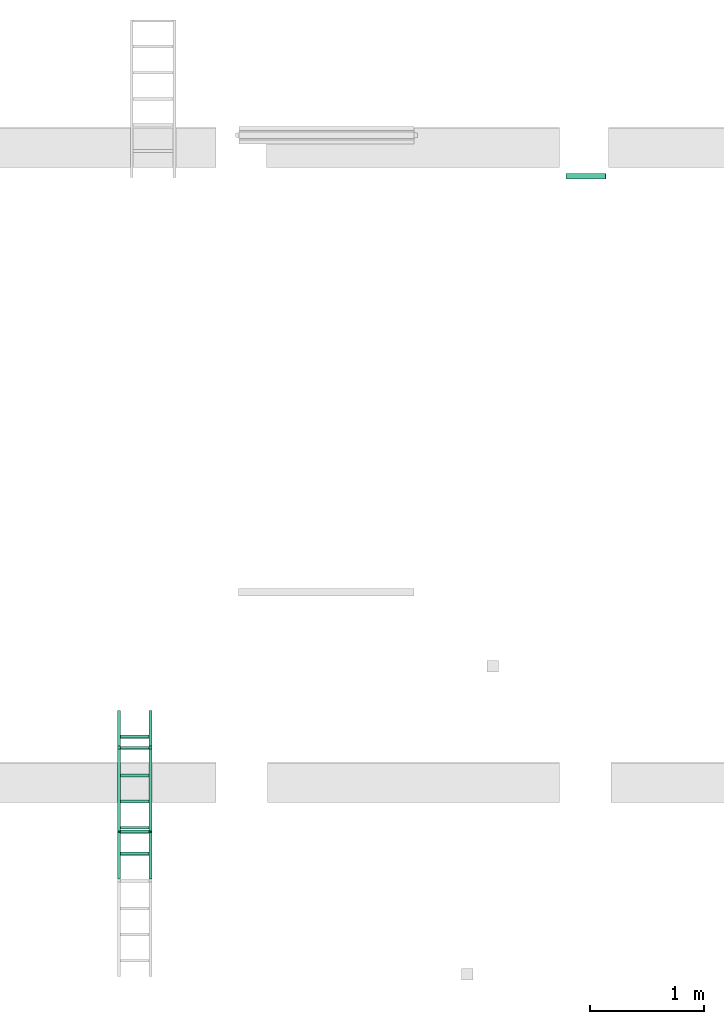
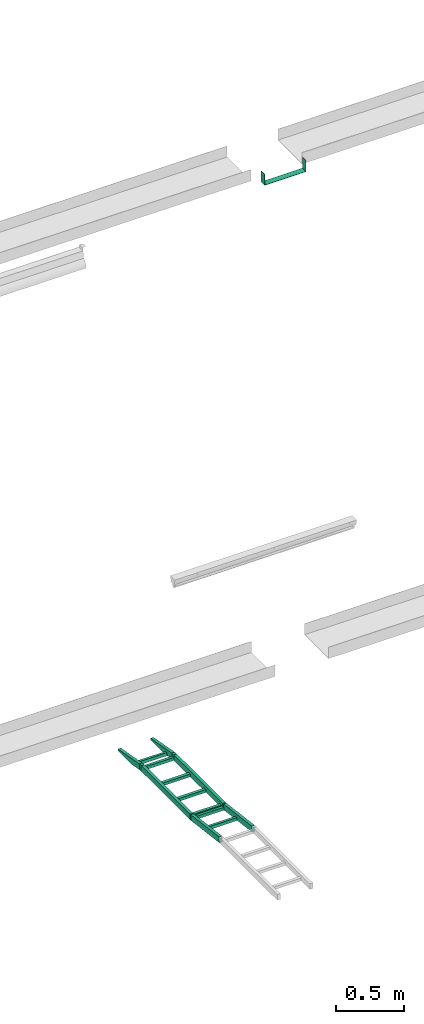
# One storey, part 14 of 14: 4 flow segments, 2 flow fittings.
"""IFC2X3 building model written with IfcOpenShell, lengths in millimetres."""

from ifc_helpers import new_model, entity, si_unit, converted_unit, derived_unit, direction, frame, origin_with_axes, place, context, subcontext, project, spatial, open_shell, faceted_brep, surface_model, source, transform, mapped, type_object, element, save


model = new_model("IFC2X3")

# Units and contexts
model_context = context("Model", 3, precision=0.01, world=frame((0.0, 4.29681676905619e-09, 0.0)), true_north=direction((4.01073788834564e-13, 1.0)))
plan_context = context("Plan", 3, precision=0.01, world=frame((0.0, 4.29681676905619e-09, 0.0)), true_north=direction((4.01073788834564e-13, 1.0)))
body_context = subcontext(model_context, "Body", "Model", "MODEL_VIEW")
ifc_project = project(units=[converted_unit("PLANEANGLEUNIT", "DEGREE", entity("IfcPositiveLengthMeasure", 0.0174532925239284), si_unit("PLANEANGLEUNIT", "RADIAN"), dimensions=[0, 0, 0, 0, 0, 0, 0]), si_unit("AREAUNIT", "SQUARE_METRE"), si_unit("LENGTHUNIT", "METRE", prefix="MILLI"), si_unit("MASSUNIT", "GRAM", prefix="KILO"), si_unit("POWERUNIT", "WATT"), si_unit("PRESSUREUNIT", "PASCAL", prefix="KILO"), si_unit("FORCEUNIT", "NEWTON", prefix="KILO"), si_unit("ELECTRICVOLTAGEUNIT", "VOLT"), si_unit("ELECTRICCURRENTUNIT", "AMPERE"), si_unit("THERMODYNAMICTEMPERATUREUNIT", "DEGREE_CELSIUS"), si_unit("TIMEUNIT", "SECOND"), si_unit("VOLUMEUNIT", "CUBIC_METRE"), derived_unit("LINEARVELOCITYUNIT", [(si_unit("LENGTHUNIT", "METRE"), 1), (si_unit("TIMEUNIT", "SECOND"), -1)]), derived_unit("VOLUMETRICFLOWRATEUNIT", [(si_unit("VOLUMEUNIT", "CUBIC_METRE"), 1), (si_unit("TIMEUNIT", "SECOND"), -1)]), derived_unit("THERMALTRANSMITTANCEUNIT", [(si_unit("POWERUNIT", "WATT"), 1), (si_unit("THERMODYNAMICTEMPERATUREUNIT", "KELVIN"), -1), (si_unit("AREAUNIT", "SQUARE_METRE"), -1)]), derived_unit("SOUNDPRESSUREUNIT", [(si_unit("PRESSUREUNIT", "PASCAL"), 1)])], contexts=[model_context, plan_context])

# Site, building, storey
site_placement = place(None, frame((0.0, -4.29681676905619e-09, 0.0), z_axis=(0.0, 0.0, 1.0), x_axis=(1.0, 0.0, 0.0)))
site = spatial("IfcSite", under=ifc_project, at=site_placement, Name="ENGM", CompositionType="ELEMENT")
building_placement = place(site_placement, frame((0.0, 4.29681676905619e-09, 0.0), z_axis=(0.0, 0.0, 1.0), x_axis=(1.0, 0.0, 0.0)))
building = spatial("IfcBuilding", under=site, at=building_placement, Name="TG", CompositionType="ELEMENT")
storey_placement = place(building_placement, frame((0.0, 0.0, 205200.0), z_axis=(0.0, 0.0, 1.0), x_axis=(1.0, 0.0, 0.0)))
storey = spatial("IfcBuildingStorey", under=building, at=storey_placement, Name="Nivå D + 1,2", CompositionType="ELEMENT", Elevation=205200.0)

# Flow fittings
cable_carrier_fitting_type = type_object("IfcCableCarrierFittingType", Name="Standard 10mm", PredefinedType="BEND")
shared_shape_1 = source(origin_with_axes(), body_context, "Body", "SurfaceModel", [
    surface_model("IfcShellBasedSurfaceModel", [(12.67337, 0.8628, -124.6), (10.42555, 26.16314, -124.6), (10.42555, 26.16314, 124.6), (12.67337, 0.8628, 124.6), (-12.62697, -1.38502, 124.6), (-12.62697, -1.38502, -124.6), (-14.87479, 23.91533, -124.6), (-14.87479, 23.91533, 124.6), (-13.10959, 25.0, 150.0), (-13.10959, 25.0, 124.6), (-13.10959, -25.0, 124.6), (-13.10959, -25.0, 150.0), (-13.10959, 25.0, -124.6), (-13.10959, 25.0, -150.0), (-13.10959, -25.0, -150.0), (-13.10959, -25.0, -124.6), (-3.10959, 25.0, 150.0), (-3.10959, 25.0, 124.6), (-3.10959, -25.0, 124.6), (-2.22462, 25.03924, 124.6), (2.20022, -24.76459, 124.6), (-1.3466, 25.15663, 124.6), (8.49677, 26.91963, 124.6), (17.31172, -22.29721, 124.6), (7.46836, -24.0602, 124.6), (-3.10959, -25.0, 150.0), (-2.22462, 25.03924, 150.0), (2.20022, -24.76459, 150.0), (7.46836, -24.0602, 150.0), (-1.3466, 25.15663, 150.0), (17.31172, -22.29721, 150.0), (8.49677, 26.91963, 150.0), (-3.10959, 25.0, -124.6), (-3.10959, 25.0, -150.0), (-3.10959, -25.0, -150.0), (-2.22462, 25.03924, -150.0), (2.20022, -24.76459, -150.0), (-1.3466, 25.15663, -150.0), (8.49677, 26.91963, -150.0), (17.31172, -22.29721, -150.0), (7.46836, -24.0602, -150.0), (-3.10959, -25.0, -124.6), (-2.22462, 25.03924, -124.6), (2.20022, -24.76459, -124.6), (7.46836, -24.0602, -124.6), (-1.3466, 25.15663, -124.6), (17.31172, -22.29721, -124.6), (8.49677, 26.91963, -124.6)], [open_shell([[[0, 1, 2]], [[2, 3, 0]], [[3, 4, 5]], [[5, 0, 3]], [[0, 5, 6]], [[6, 1, 0]], [[1, 6, 7]], [[7, 2, 1]], [[3, 2, 7]], [[7, 4, 3]], [[7, 6, 5]], [[5, 4, 7]], [[8, 9, 10]], [[10, 11, 8]], [[12, 13, 14]], [[14, 15, 12]], [[8, 16, 17]], [[17, 9, 8]], [[10, 17, 18]], [[17, 10, 9]], [[18, 17, 19]], [[19, 20, 18]], [[21, 22, 23]], [[21, 24, 20]], [[24, 21, 23]], [[21, 20, 19]], [[10, 18, 25]], [[25, 11, 10]], [[11, 25, 16]], [[16, 8, 11]], [[26, 16, 25]], [[25, 27, 26]], [[27, 28, 29]], [[29, 30, 31]], [[30, 29, 28]], [[27, 29, 26]], [[12, 32, 33]], [[33, 13, 12]], [[14, 33, 34]], [[33, 14, 13]], [[34, 33, 35]], [[35, 36, 34]], [[37, 38, 39]], [[37, 40, 36]], [[40, 37, 39]], [[37, 36, 35]], [[14, 34, 41]], [[41, 15, 14]], [[15, 41, 32]], [[32, 12, 15]], [[42, 32, 41]], [[41, 43, 42]], [[43, 44, 45]], [[45, 46, 47]], [[46, 45, 44]], [[43, 45, 42]], [[19, 17, 16]], [[26, 19, 16]], [[29, 21, 26]], [[19, 26, 21]], [[27, 25, 18]], [[27, 18, 20]], [[27, 24, 28]], [[24, 27, 20]], [[32, 42, 33]], [[35, 33, 42]], [[45, 37, 35]], [[42, 45, 35]], [[41, 36, 43]], [[36, 41, 34]], [[36, 40, 44]], [[36, 44, 43]], [[23, 22, 30]], [[31, 30, 22]], [[39, 38, 46]], [[47, 46, 38]], [[29, 31, 22]], [[22, 21, 29]], [[24, 23, 30]], [[30, 28, 24]], [[45, 47, 38]], [[38, 37, 45]], [[40, 39, 46]], [[46, 44, 40]]])]),
])
flow_fitting_1_placement = place(storey_placement, frame((340570.0, 461140.0, 4047.5), z_axis=(1.0, 0.0, 0.0), x_axis=(0.0, -0.98433667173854, 0.176298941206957)))
element("IfcFlowFitting", 1, at=flow_fitting_1_placement, inside=storey, type_object=cable_carrier_fitting_type, Name="Standard 10mm", context=body_context, shape_type="MappedRepresentation", body=[
    mapped(shared_shape_1, transform((0.0, 0.0, 0.0), scale=1.0)),
])
shared_shape_2 = source(origin_with_axes(), body_context, "Body", "SurfaceModel", [
    surface_model("IfcShellBasedSurfaceModel", [(-2.22929, -25.0, 124.6), (-2.22929, 25.0, 124.6), (-1.59364, 25.02022, 124.6), (1.58462, -24.87866, 124.6), (-0.96056, 25.08081, 124.6), (5.38311, -24.51513, 124.6), (-1.59364, 25.02022, 150.0), (-2.22929, 25.0, 150.0), (-2.22929, -25.0, 150.0), (1.58462, -24.87866, 150.0), (5.38311, -24.51513, 150.0), (-0.96056, 25.08081, 150.0), (-2.22929, -25.0, -150.0), (-2.22929, 25.0, -150.0), (-1.59364, 25.02022, -150.0), (1.58462, -24.87866, -150.0), (-0.96056, 25.08081, -150.0), (5.38311, -24.51513, -150.0), (-1.59364, 25.02022, -124.6), (-2.22929, 25.0, -124.6), (-2.22929, -25.0, -124.6), (1.58462, -24.87866, -124.6), (5.38311, -24.51513, -124.6), (-0.96056, 25.08081, -124.6), (14.25894, -24.07138, -124.6), (12.64438, 1.27725, -124.6), (12.64438, 1.27725, 124.6), (14.25894, -24.07138, 124.6), (-11.08969, -25.68594, 124.6), (-11.08969, -25.68594, -124.6), (-12.70425, -0.33731, -124.6), (-12.70425, -0.33731, 124.6), (-5.22929, 25.0, 150.0), (-5.22929, 25.0, 124.6), (-5.22929, -25.0, 124.6), (-5.22929, -25.0, 150.0), (-5.22929, 25.0, -124.6), (-5.22929, 25.0, -150.0), (-5.22929, -25.0, -150.0), (-5.22929, -25.0, -124.6), (2.0152, 25.46143, 124.6), (8.35887, -24.13451, 124.6), (8.35887, -24.13451, 150.0), (2.0152, 25.46143, 150.0), (2.0152, 25.46143, -150.0), (8.35887, -24.13451, -150.0), (8.35887, -24.13451, -124.6), (2.0152, 25.46143, -124.6)], [open_shell([[[0, 1, 2]], [[2, 3, 0]], [[4, 5, 3]], [[4, 3, 2]], [[6, 7, 8]], [[8, 9, 6]], [[9, 10, 11]], [[9, 11, 6]], [[12, 13, 14]], [[14, 15, 12]], [[16, 17, 15]], [[16, 15, 14]], [[18, 19, 20]], [[20, 21, 18]], [[21, 22, 23]], [[21, 23, 18]], [[2, 1, 7]], [[6, 2, 7]], [[11, 4, 6]], [[2, 6, 4]], [[9, 8, 0]], [[9, 0, 3]], [[9, 5, 10]], [[5, 9, 3]], [[19, 18, 13]], [[14, 13, 18]], [[23, 16, 14]], [[18, 23, 14]], [[20, 15, 21]], [[15, 20, 12]], [[15, 17, 22]], [[15, 22, 21]], [[24, 25, 26]], [[26, 27, 24]], [[27, 28, 29]], [[29, 24, 27]], [[24, 29, 30]], [[30, 25, 24]], [[25, 30, 31]], [[31, 26, 25]], [[27, 26, 31]], [[31, 28, 27]], [[31, 30, 29]], [[29, 28, 31]], [[32, 33, 34]], [[34, 35, 32]], [[36, 37, 38]], [[38, 39, 36]], [[32, 7, 1]], [[1, 33, 32]], [[34, 1, 0]], [[1, 34, 33]], [[4, 40, 41]], [[5, 4, 41]], [[34, 0, 8]], [[8, 35, 34]], [[35, 8, 7]], [[7, 32, 35]], [[11, 42, 43]], [[42, 11, 10]], [[36, 19, 13]], [[13, 37, 36]], [[38, 13, 12]], [[13, 38, 37]], [[16, 44, 45]], [[17, 16, 45]], [[38, 12, 20]], [[20, 39, 38]], [[39, 20, 19]], [[19, 36, 39]], [[23, 46, 47]], [[46, 23, 22]], [[41, 40, 42]], [[43, 42, 40]], [[45, 44, 46]], [[47, 46, 44]], [[11, 43, 40]], [[40, 4, 11]], [[5, 41, 42]], [[42, 10, 5]], [[23, 47, 44]], [[44, 16, 23]], [[17, 45, 46]], [[46, 22, 17]]])]),
])
flow_fitting_2_placement = place(storey_placement, frame((340570.0, 460406.89041, 4047.5), z_axis=(-1.0, 0.0, 0.0), x_axis=(0.0, -1.0, 0.0)))
element("IfcFlowFitting", 2, at=flow_fitting_2_placement, inside=storey, type_object=cable_carrier_fitting_type, Name="Standard 10mm", context=body_context, shape_type="MappedRepresentation", body=[
    mapped(shared_shape_2, transform((0.0, 0.0, 0.0), scale=1.0)),
])

# Flow segments
cable_carrier_segment_type_1 = type_object("IfcCableCarrierSegmentType", Name="Kabelbane", PredefinedType="CABLETRAYSEGMENT")
shared_shape_3 = source(origin_with_axes(), body_context, "Body", "SurfaceModel", [
    surface_model("IfcShellBasedSurfaceModel", [(0.0, -175.0, 50.0), (0.0, -172.46, -47.46), (0.0, -175.0, -50.0), (0.0, 175.0, -50.0), (0.0, -172.46, 50.0), (0.0, 175.0, 50.0), (0.0, 172.46, -47.46), (0.0, 172.46, 50.0), (50.0, -172.46, 50.0), (50.0, -175.0, 50.0), (50.0, -172.46, -47.46), (50.0, 175.0, 50.0), (50.0, 172.46, 50.0), (50.0, 172.46, -47.46), (50.0, -175.0, -50.0), (50.0, 175.0, -50.0)], [open_shell([[[0, 1, 2]], [[3, 2, 1]], [[1, 0, 4]], [[5, 3, 6]], [[1, 6, 3]], [[6, 7, 5]], [[8, 9, 10]], [[11, 12, 13]], [[10, 14, 15]], [[14, 10, 9]], [[13, 15, 11]], [[15, 13, 10]], [[2, 14, 9]], [[9, 0, 2]], [[0, 9, 8]], [[8, 4, 0]], [[4, 8, 10]], [[10, 1, 4]], [[1, 10, 13]], [[13, 6, 1]], [[6, 13, 12]], [[12, 7, 6]], [[7, 12, 11]], [[11, 5, 7]], [[5, 11, 15]], [[15, 3, 5]], [[3, 15, 14]], [[14, 2, 3]]])]),
])
flow_segment_1_placement = place(storey_placement, frame((344512.09972, 466160.0, 4900.0), z_axis=(0.0, 0.0, 1.0), x_axis=(0.0, -1.0, 0.0)))
element("IfcFlowSegment", 3, at=flow_segment_1_placement, inside=storey, type_object=cable_carrier_segment_type_1, Name="Kabelbane", context=body_context, shape_type="MappedRepresentation", body=[
    mapped(shared_shape_3, transform((0.0, 0.0, 0.0), scale=1.0)),
])
cable_carrier_segment_type_2 = type_object("IfcCableCarrierSegmentType", Name="Kabelbro", PredefinedType="CABLELADDERSEGMENT")
shared_shape_4 = source(origin_with_axes(), body_context, "Body", "SurfaceModel", [
    surface_model("IfcShellBasedSurfaceModel", [(241.30001, -124.6, 0.4), (215.89999, -124.6, 0.4), (215.89999, -124.6, -25.0), (241.30001, -124.6, -25.0), (215.89999, 124.6, -25.0), (215.89999, 124.6, 0.4), (241.30001, 124.6, 0.4), (241.30001, 124.6, -25.0), (469.89999, -124.6, 0.4), (444.50001, -124.6, 0.4), (444.50001, -124.6, -25.0), (469.89999, -124.6, -25.0), (444.50001, 124.6, -25.0), (444.50001, 124.6, 0.4), (469.89999, 124.6, 0.4), (469.89999, 124.6, -25.0), (698.50002, -124.6, 0.4), (673.09998, -124.6, 0.4), (673.09998, -124.6, -25.0), (698.50002, -124.6, -25.0), (673.09998, 124.6, -25.0), (673.09998, 124.6, 0.4), (698.50002, 124.6, 0.4), (698.50002, 124.6, -25.0), (0.0, -124.6, -25.0), (0.0, -150.0, 25.0), (0.0, -124.6, 25.0), (0.0, -150.0, -25.0), (0.0, 150.0, -25.0), (0.0, 124.6, 25.0), (0.0, 150.0, 25.0), (0.0, 124.6, -25.0), (714.77069, -124.6, 25.0), (714.77069, -150.0, 25.0), (714.77069, -124.6, -25.0), (714.77069, -150.0, -25.0), (714.77069, 150.0, 25.0), (714.77069, 124.6, 25.0), (714.77069, 150.0, -25.0), (714.77069, 124.6, -25.0)], [open_shell([[[0, 1, 2]], [[2, 3, 0]], [[4, 5, 6]], [[6, 7, 4]], [[3, 7, 6]], [[6, 0, 3]], [[0, 6, 5]], [[5, 1, 0]], [[1, 5, 4]], [[4, 2, 1]], [[2, 4, 7]], [[7, 3, 2]], [[8, 9, 10]], [[10, 11, 8]], [[12, 13, 14]], [[14, 15, 12]], [[11, 15, 14]], [[14, 8, 11]], [[8, 14, 13]], [[13, 9, 8]], [[9, 13, 12]], [[12, 10, 9]], [[10, 12, 15]], [[15, 11, 10]], [[16, 17, 18]], [[18, 19, 16]], [[20, 21, 22]], [[22, 23, 20]], [[19, 23, 22]], [[22, 16, 19]], [[16, 22, 21]], [[21, 17, 16]], [[17, 21, 20]], [[20, 18, 17]], [[18, 20, 23]], [[23, 19, 18]], [[24, 25, 26]], [[25, 24, 27]], [[28, 29, 30]], [[29, 28, 31]], [[32, 33, 34]], [[35, 34, 33]], [[36, 37, 38]], [[39, 38, 37]], [[27, 35, 33]], [[33, 25, 27]], [[25, 33, 32]], [[32, 26, 25]], [[26, 32, 34]], [[34, 24, 26]], [[24, 34, 35]], [[35, 27, 24]], [[30, 36, 38]], [[38, 28, 30]], [[28, 38, 39]], [[39, 31, 28]], [[31, 39, 37]], [[37, 29, 31]], [[29, 37, 36]], [[36, 30, 29]]])]),
])
flow_segment_2_placement = place(storey_placement, frame((340570.0, 461126.89041, 4047.5), z_axis=(0.0, 0.0, 1.0), x_axis=(0.0, -1.0, 0.0)))
element("IfcFlowSegment", 4, at=flow_segment_2_placement, inside=storey, type_object=cable_carrier_segment_type_2, Name="Kabelbro", context=body_context, shape_type="MappedRepresentation", body=[
    mapped(shared_shape_4, transform((0.0, 0.0, 0.0), scale=1.0)),
])
shared_shape_5 = source(origin_with_axes(), body_context, "Body", "SurfaceModel", [
    surface_model("IfcShellBasedSurfaceModel", [(241.30001, -124.6, 0.4), (215.89999, -124.6, 0.4), (215.89999, -124.6, -25.0), (241.30001, -124.6, -25.0), (215.89999, 124.6, -25.0), (215.89999, 124.6, 0.4), (241.30001, 124.6, 0.4), (241.30001, 124.6, -25.0), (0.0, -124.6, 25.0), (0.0, -150.0, -25.0), (0.0, -150.0, 25.0), (0.0, -124.6, -25.0), (0.0, 150.0, 25.0), (0.0, 124.6, -25.0), (0.0, 124.6, 25.0), (0.0, 150.0, -25.0), (416.04459, -124.6, -25.0), (416.04459, -124.6, 25.0), (416.04459, -150.0, -25.0), (416.04459, -150.0, 25.0), (416.04459, 150.0, -25.0), (416.04459, 150.0, 25.0), (416.04459, 124.6, -25.0), (416.04459, 124.6, 25.0)], [open_shell([[[0, 1, 2]], [[2, 3, 0]], [[4, 5, 6]], [[6, 7, 4]], [[3, 7, 6]], [[6, 0, 3]], [[0, 6, 5]], [[5, 1, 0]], [[1, 5, 4]], [[4, 2, 1]], [[2, 4, 7]], [[7, 3, 2]], [[8, 9, 10]], [[9, 8, 11]], [[12, 13, 14]], [[13, 12, 15]], [[16, 17, 18]], [[19, 18, 17]], [[20, 21, 22]], [[23, 22, 21]], [[9, 18, 19]], [[19, 10, 9]], [[10, 19, 17]], [[17, 8, 10]], [[8, 17, 16]], [[16, 11, 8]], [[11, 16, 18]], [[18, 9, 11]], [[12, 21, 20]], [[20, 15, 12]], [[15, 20, 22]], [[22, 13, 15]], [[13, 22, 23]], [[23, 14, 13]], [[14, 23, 21]], [[21, 12, 14]]])]),
])
flow_segment_3_placement = place(storey_placement, frame((340570.0, 459989.02088, 4100.94842999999), z_axis=(0.0, 0.126872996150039, 0.991918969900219), x_axis=(0.0, 0.991918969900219, -0.126872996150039)))
element("IfcFlowSegment", 5, at=flow_segment_3_placement, inside=storey, type_object=cable_carrier_segment_type_2, Name="Kabelbro", context=body_context, shape_type="MappedRepresentation", body=[
    mapped(shared_shape_5, transform((0.0, 0.0, 0.0), scale=1.0)),
])
flow_segment_4_placement = place(storey_placement, frame((340570.0, 461462.97644, 3989.65346999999), z_axis=(0.0, 0.176298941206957, 0.98433667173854), x_axis=(0.0, -0.98433667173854, 0.176298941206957)))
element("IfcFlowSegment", 6, at=flow_segment_4_placement, inside=storey, type_object=cable_carrier_segment_type_2, Name="Kabelbro", context=body_context, shape_type="Brep", body=[
    faceted_brep([(215.89999, -124.6, -25.0), (215.89999, -124.6, 0.4), (241.30001, -124.6, 0.4), (241.30001, -124.6, -25.0), (241.30001, 124.6, 0.4), (215.89999, 124.6, 0.4), (215.89999, 124.6, -25.0), (241.30001, 124.6, -25.0), (0.0, -142.639674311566, 10.5111699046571), (0.0, -124.6, 10.5111699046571), (0.0, -124.6, 25.0), (0.0, -150.0, 25.0), (0.0, -150.0, 10.5111699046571), (0.0, 131.960325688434, 10.5111699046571), (0.0, 150.0, 10.5111699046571), (0.0, 150.0, 25.0), (0.0, 124.6, 25.0), (0.0, 124.6, 10.5111699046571), (315.00624, -124.6, -25.0), (315.00624, -150.0, -25.0), (315.00624, -150.0, 25.0), (315.00624, -124.6, 25.0), (315.00624, 150.0, -25.0), (315.00624, 124.6, -25.0), (315.00624, 124.6, 25.0), (315.00624, 150.0, 25.0), (198.270883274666, -150.0, -25.0), (105.115089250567, -150.0, -8.31539571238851), (198.270883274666, -124.6, -25.0), (198.270883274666, -140.587240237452, -25.0), (198.270883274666, 150.0, -25.0), (198.270883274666, 134.012759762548, -25.0), (198.270883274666, 124.6, -25.0), (105.115089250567, 124.6, -8.31539571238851)], [[[0, 1, 2]], [[2, 3, 0]], [[4, 5, 6]], [[6, 7, 4]], [[4, 7, 3]], [[3, 2, 4]], [[5, 4, 2]], [[2, 1, 5]], [[6, 5, 1]], [[1, 0, 6]], [[7, 6, 0]], [[0, 3, 7]], [[8, 9, 10, 11]], [[12, 8, 11]], [[13, 14, 15, 16]], [[17, 13, 16]], [[18, 19, 20]], [[20, 21, 18]], [[22, 23, 24]], [[24, 25, 22]], [[26, 27, 20, 19]], [[27, 12, 11, 20]], [[21, 20, 11]], [[11, 10, 21]], [[18, 21, 10]], [[9, 28, 18, 10]], [[28, 29, 19, 18]], [[29, 26, 19]], [[22, 25, 15]], [[14, 30, 22, 15]], [[30, 31, 23, 22]], [[31, 32, 23]], [[32, 33, 24, 23]], [[33, 17, 16, 24]], [[25, 24, 16]], [[16, 15, 25]], [[12, 27, 26, 29, 28, 9, 8]], [[17, 33, 32, 31, 30, 14, 13]]], orient=[[False], [False], [False], [False], [False], [False], [False], [False], [False], [False], [False], [False], [False], [False], [False], [False], [False], [False], [False], [False], [False], [False], [False], [False], [False], [False], [False], [False], [False], [False], [False], [False], [False], [False], [False], [False], [False], [False]]),
])

save(model, "model.ifc")
